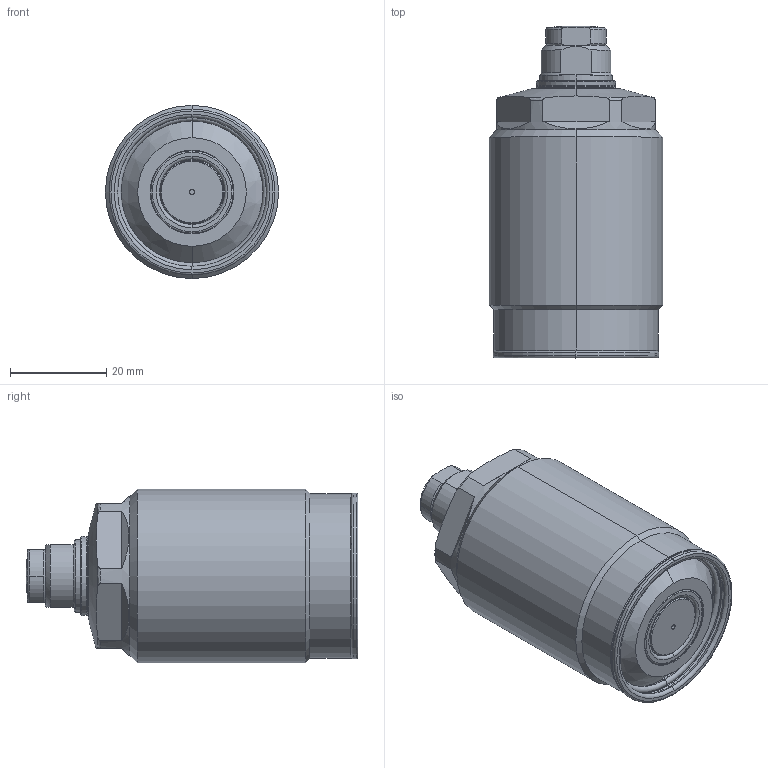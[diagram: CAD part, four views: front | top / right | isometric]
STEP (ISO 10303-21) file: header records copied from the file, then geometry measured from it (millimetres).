
FILE_DESCRIPTION(/* description */ (''),/* implementation_level */ '2;1');
FILE_NAME(/* name */ 'TSC36.stp',/* time_stamp */ '2024-11-02T14:29:18+08:00',/* author */ (''),/* organization */ (''),/* preprocessor_version */ 'ST-DEVELOPER v16.7',/* originating_system */ 'SIEMENS PLM Software NX 12.0',/* authorisation */ '');
FILE_SCHEMA (('AP203_CONFIGURATION_CONTROLLED_3D_DESIGN_OF_MECHANICAL_PARTS_AND_ASSEMBLIES_MIM_LF { 1 0 10303 403 2 1 2}'));
Length unit declared in the file: millimetre
Products named in the file (7): XLC-M10_Oring; XLC-M10_contactbolt; TSC36-04; TSC36-03; TSC36-02; TSC36-01; LD0363-x_step
Assembly tree (6 placements, depth 3):
  LD0363-x_step
    TSC36-01
      XLC-M10_contactbolt
      XLC-M10_Oring
    TSC36-02
    TSC36-03
    TSC36-04
Bounding box: 36 x 69 x 36 mm (x, y, z)
Volume: 54298.7 mm3; surface area: 11816 mm2
Topology: 5 solids, 5 shells, 375 faces, 782 edges, 428 vertices
Faces by surface type: cone 230, torus 62, cylinder 43, plane 38, sphere 2
Entity records: 10921 total; most frequent: CARTESIAN_POINT 1994, DIRECTION 1941, ORIENTED_EDGE 1564, AXIS2_PLACEMENT_3D 821, EDGE_CURVE 782, CIRCLE 439, VERTEX_POINT 428, EDGE_LOOP 390
